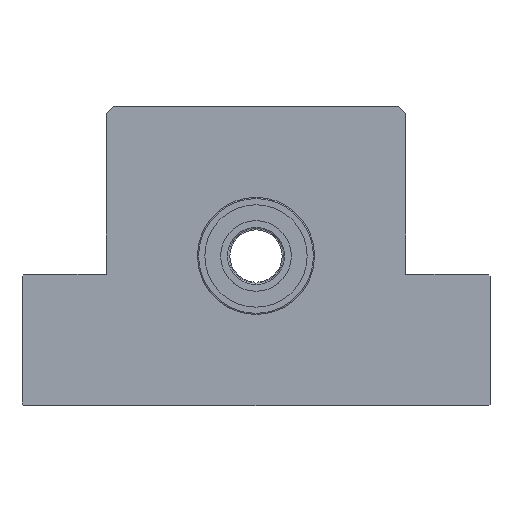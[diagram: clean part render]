
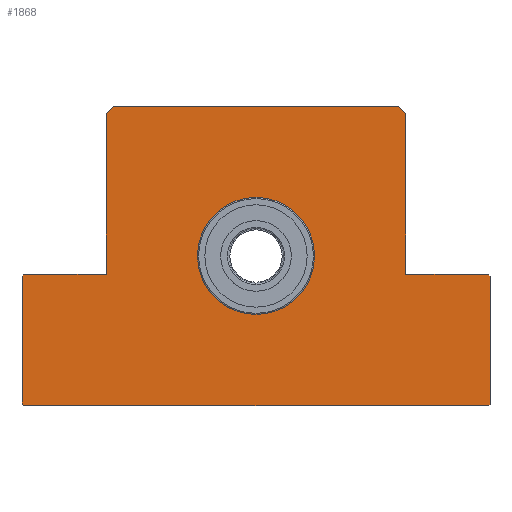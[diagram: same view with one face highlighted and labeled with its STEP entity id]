
A CAD part, top view. The second image highlights one B-rep face of the part: STEP entity #1868.
In plain terms, the highlighted planar face has unit normal (0, 0, 1).
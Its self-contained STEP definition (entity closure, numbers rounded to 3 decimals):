
#10 = VECTOR ( 'NONE', #871, 1000. ) ;
#72 = EDGE_CURVE ( 'NONE', #596, #1271, #2324, .T. ) ;
#119 = ORIENTED_EDGE ( 'NONE', *, *, #1471, .T. ) ;
#154 = LINE ( 'NONE', #2964, #3230 ) ;
#160 = EDGE_CURVE ( 'NONE', #2627, #173, #1288, .T. ) ;
#173 = VERTEX_POINT ( 'NONE', #2339 ) ;
#246 = LINE ( 'NONE', #1528, #1803 ) ;
#256 = LINE ( 'NONE', #1586, #3065 ) ;
#284 = VERTEX_POINT ( 'NONE', #2349 ) ;
#286 = ORIENTED_EDGE ( 'NONE', *, *, #468, .T. ) ;
#291 = DIRECTION ( 'NONE',  ( 1., 0., 0. ) ) ;
#293 = ORIENTED_EDGE ( 'NONE', *, *, #2207, .F. ) ;
#311 = VERTEX_POINT ( 'NONE', #2285 ) ;
#331 = ORIENTED_EDGE ( 'NONE', *, *, #72, .F. ) ;
#335 = LINE ( 'NONE', #1544, #1111 ) ;
#342 = DIRECTION ( 'NONE',  ( -0.707, 0.707, 0. ) ) ;
#343 = VERTEX_POINT ( 'NONE', #721 ) ;
#408 = CARTESIAN_POINT ( 'NONE',  ( 41., 39., 20. ) ) ;
#418 = DIRECTION ( 'NONE',  ( 1., 0., 0. ) ) ;
#424 = DIRECTION ( 'NONE',  ( 0., 0., -1. ) ) ;
#468 = EDGE_CURVE ( 'NONE', #2055, #2546, #820, .T. ) ;
#493 = CARTESIAN_POINT ( 'NONE',  ( 39., 41., 20. ) ) ;
#525 = EDGE_CURVE ( 'NONE', #284, #311, #2671, .T. ) ;
#577 = DIRECTION ( 'NONE',  ( -0.707, 0.707, 0. ) ) ;
#593 = LINE ( 'NONE', #2377, #1755 ) ;
#596 = VERTEX_POINT ( 'NONE', #1133 ) ;
#614 = AXIS2_PLACEMENT_3D ( 'NONE', #2506, #424, #3040 ) ;
#721 = CARTESIAN_POINT ( 'NONE',  ( 39., 41., 20. ) ) ;
#752 = DIRECTION ( 'NONE',  ( 0., -1., 0. ) ) ;
#769 = CARTESIAN_POINT ( 'NONE',  ( -39., 41., 20. ) ) ;
#782 = EDGE_LOOP ( 'NONE', ( #2231, #1297, #2860, #3339, #1349, #286, #2789, #942, #1247, #2592, #119, #1601, #2116, #1008 ) ) ;
#820 = LINE ( 'NONE', #1338, #869 ) ;
#832 = AXIS2_PLACEMENT_3D ( 'NONE', #1326, #1560, #2337 ) ;
#853 = CARTESIAN_POINT ( 'NONE',  ( 63.5, -5., 20. ) ) ;
#869 = VECTOR ( 'NONE', #291, 1000. ) ;
#871 = DIRECTION ( 'NONE',  ( 0., 1., 0. ) ) ;
#908 = DIRECTION ( 'NONE',  ( 0., 0., 1. ) ) ;
#942 = ORIENTED_EDGE ( 'NONE', *, *, #2656, .T. ) ;
#968 = CARTESIAN_POINT ( 'NONE',  ( 64., -5.5, 20. ) ) ;
#1008 = ORIENTED_EDGE ( 'NONE', *, *, #160, .T. ) ;
#1037 = VECTOR ( 'NONE', #1480, 1000. ) ;
#1064 = DIRECTION ( 'NONE',  ( 0.707, 0.707, 0. ) ) ;
#1111 = VECTOR ( 'NONE', #3165, 1000. ) ;
#1116 = LINE ( 'NONE', #1335, #10 ) ;
#1117 = VERTEX_POINT ( 'NONE', #2085 ) ;
#1133 = CARTESIAN_POINT ( 'NONE',  ( 16., 0., 20. ) ) ;
#1163 = CIRCLE ( 'NONE', #832, 16. ) ;
#1247 = ORIENTED_EDGE ( 'NONE', *, *, #1520, .T. ) ;
#1271 = VERTEX_POINT ( 'NONE', #2173 ) ;
#1276 = LINE ( 'NONE', #493, #1037 ) ;
#1288 = LINE ( 'NONE', #2519, #1836 ) ;
#1297 = ORIENTED_EDGE ( 'NONE', *, *, #2445, .T. ) ;
#1326 = CARTESIAN_POINT ( 'NONE',  ( 0., 0., 20. ) ) ;
#1335 = CARTESIAN_POINT ( 'NONE',  ( 41., -5., 20. ) ) ;
#1338 = CARTESIAN_POINT ( 'NONE',  ( -63.5, -41., 20. ) ) ;
#1349 = ORIENTED_EDGE ( 'NONE', *, *, #2753, .T. ) ;
#1407 = VECTOR ( 'NONE', #2625, 1000. ) ;
#1428 = CARTESIAN_POINT ( 'NONE',  ( -63.5, -5., 20. ) ) ;
#1448 = EDGE_CURVE ( 'NONE', #2736, #343, #2413, .T. ) ;
#1471 = EDGE_CURVE ( 'NONE', #311, #2736, #1116, .T. ) ;
#1480 = DIRECTION ( 'NONE',  ( -1., 0., 0. ) ) ;
#1520 = EDGE_CURVE ( 'NONE', #1784, #284, #1852, .T. ) ;
#1528 = CARTESIAN_POINT ( 'NONE',  ( -64., -5.5, 20. ) ) ;
#1544 = CARTESIAN_POINT ( 'NONE',  ( -41., -5., 20. ) ) ;
#1560 = DIRECTION ( 'NONE',  ( 0., 0., 1. ) ) ;
#1586 = CARTESIAN_POINT ( 'NONE',  ( 63.5, -41., 20. ) ) ;
#1601 = ORIENTED_EDGE ( 'NONE', *, *, #1448, .T. ) ;
#1653 = VERTEX_POINT ( 'NONE', #1428 ) ;
#1702 = EDGE_CURVE ( 'NONE', #343, #2627, #1276, .T. ) ;
#1746 = CARTESIAN_POINT ( 'NONE',  ( -64., -5.5, 20. ) ) ;
#1755 = VECTOR ( 'NONE', #2595, 1000. ) ;
#1784 = VERTEX_POINT ( 'NONE', #968 ) ;
#1803 = VECTOR ( 'NONE', #2045, 1000. ) ;
#1836 = VECTOR ( 'NONE', #2610, 1000. ) ;
#1852 = LINE ( 'NONE', #2897, #1912 ) ;
#1868 = ADVANCED_FACE ( 'NONE', ( #1998, #2743 ), #3284, .F. ) ;
#1912 = VECTOR ( 'NONE', #577, 1000. ) ;
#1921 = EDGE_CURVE ( 'NONE', #173, #1996, #2287, .T. ) ;
#1923 = LINE ( 'NONE', #2456, #1980 ) ;
#1936 = DIRECTION ( 'NONE',  ( 0., 1., 0. ) ) ;
#1980 = VECTOR ( 'NONE', #2731, 1000. ) ;
#1996 = VERTEX_POINT ( 'NONE', #2732 ) ;
#1998 = FACE_OUTER_BOUND ( 'NONE', #782, .T. ) ;
#2003 = CARTESIAN_POINT ( 'NONE',  ( -63.5, -41., 20. ) ) ;
#2045 = DIRECTION ( 'NONE',  ( 0., -1., 0. ) ) ;
#2055 = VERTEX_POINT ( 'NONE', #2003 ) ;
#2085 = CARTESIAN_POINT ( 'NONE',  ( -64., -40.5, 20. ) ) ;
#2116 = ORIENTED_EDGE ( 'NONE', *, *, #1702, .T. ) ;
#2173 = CARTESIAN_POINT ( 'NONE',  ( -16., 0., 20. ) ) ;
#2207 = EDGE_CURVE ( 'NONE', #1271, #596, #1163, .T. ) ;
#2231 = ORIENTED_EDGE ( 'NONE', *, *, #1921, .T. ) ;
#2285 = CARTESIAN_POINT ( 'NONE',  ( 41., -5., 20. ) ) ;
#2287 = LINE ( 'NONE', #3262, #3002 ) ;
#2315 = VERTEX_POINT ( 'NONE', #1746 ) ;
#2324 = CIRCLE ( 'NONE', #3204, 16. ) ;
#2337 = DIRECTION ( 'NONE',  ( 1., 0., 0. ) ) ;
#2339 = CARTESIAN_POINT ( 'NONE',  ( -41., 39., 20. ) ) ;
#2342 = CARTESIAN_POINT ( 'NONE',  ( 63.5, -41., 20. ) ) ;
#2349 = CARTESIAN_POINT ( 'NONE',  ( 63.5, -5., 20. ) ) ;
#2377 = CARTESIAN_POINT ( 'NONE',  ( -63.5, -5., 20. ) ) ;
#2413 = LINE ( 'NONE', #2426, #3273 ) ;
#2426 = CARTESIAN_POINT ( 'NONE',  ( 41., 39., 20. ) ) ;
#2445 = EDGE_CURVE ( 'NONE', #1996, #1653, #335, .T. ) ;
#2456 = CARTESIAN_POINT ( 'NONE',  ( -64., -40.5, 20. ) ) ;
#2506 = CARTESIAN_POINT ( 'NONE',  ( 0., 0., 20. ) ) ;
#2519 = CARTESIAN_POINT ( 'NONE',  ( -39., 41., 20. ) ) ;
#2546 = VERTEX_POINT ( 'NONE', #2342 ) ;
#2592 = ORIENTED_EDGE ( 'NONE', *, *, #525, .T. ) ;
#2595 = DIRECTION ( 'NONE',  ( -0.707, -0.707, 0. ) ) ;
#2610 = DIRECTION ( 'NONE',  ( -0.707, -0.707, 0. ) ) ;
#2625 = DIRECTION ( 'NONE',  ( -1., 0., 0. ) ) ;
#2627 = VERTEX_POINT ( 'NONE', #769 ) ;
#2656 = EDGE_CURVE ( 'NONE', #3142, #1784, #154, .T. ) ;
#2671 = LINE ( 'NONE', #853, #1407 ) ;
#2731 = DIRECTION ( 'NONE',  ( 0.707, -0.707, 0. ) ) ;
#2732 = CARTESIAN_POINT ( 'NONE',  ( -41., -5., 20. ) ) ;
#2736 = VERTEX_POINT ( 'NONE', #408 ) ;
#2743 = FACE_BOUND ( 'NONE', #3255, .T. ) ;
#2753 = EDGE_CURVE ( 'NONE', #1117, #2055, #1923, .T. ) ;
#2789 = ORIENTED_EDGE ( 'NONE', *, *, #2889, .T. ) ;
#2860 = ORIENTED_EDGE ( 'NONE', *, *, #3163, .T. ) ;
#2861 = CARTESIAN_POINT ( 'NONE',  ( 64., -40.5, 20. ) ) ;
#2889 = EDGE_CURVE ( 'NONE', #2546, #3142, #256, .T. ) ;
#2897 = CARTESIAN_POINT ( 'NONE',  ( 64., -5.5, 20. ) ) ;
#2964 = CARTESIAN_POINT ( 'NONE',  ( 64., -40.5, 20. ) ) ;
#3000 = CARTESIAN_POINT ( 'NONE',  ( 0., 0., 20. ) ) ;
#3002 = VECTOR ( 'NONE', #752, 1000. ) ;
#3040 = DIRECTION ( 'NONE',  ( -1., 0., 0. ) ) ;
#3065 = VECTOR ( 'NONE', #1064, 1000. ) ;
#3142 = VERTEX_POINT ( 'NONE', #2861 ) ;
#3163 = EDGE_CURVE ( 'NONE', #1653, #2315, #593, .T. ) ;
#3165 = DIRECTION ( 'NONE',  ( -1., 0., 0. ) ) ;
#3204 = AXIS2_PLACEMENT_3D ( 'NONE', #3000, #908, #418 ) ;
#3230 = VECTOR ( 'NONE', #1936, 1000. ) ;
#3255 = EDGE_LOOP ( 'NONE', ( #293, #331 ) ) ;
#3262 = CARTESIAN_POINT ( 'NONE',  ( -41., 39., 20. ) ) ;
#3273 = VECTOR ( 'NONE', #342, 1000. ) ;
#3284 = PLANE ( 'NONE',  #614 ) ;
#3323 = EDGE_CURVE ( 'NONE', #2315, #1117, #246, .T. ) ;
#3339 = ORIENTED_EDGE ( 'NONE', *, *, #3323, .T. ) ;
